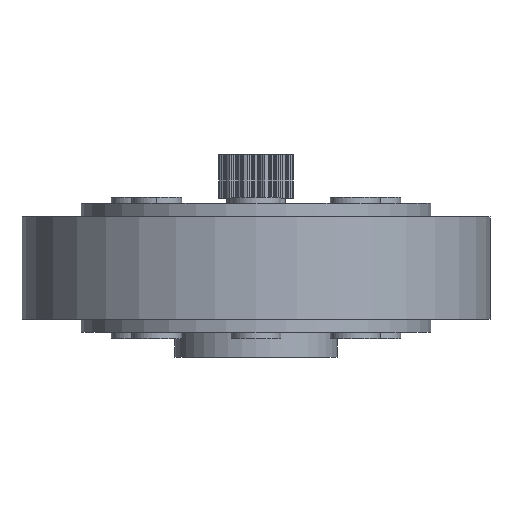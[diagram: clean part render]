
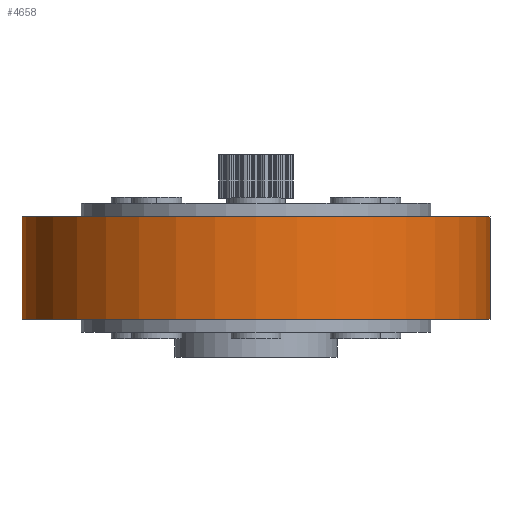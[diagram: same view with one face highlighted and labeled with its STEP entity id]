
A CAD part, front view. The second image highlights one B-rep face of the part: STEP entity #4658.
In plain terms, the highlighted cylindrical face has radius 37.5 mm (diameter 75 mm), a partial arc.
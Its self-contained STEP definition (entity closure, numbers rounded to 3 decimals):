
#352 = ORIENTED_EDGE ( 'NONE', *, *, #2582, .T. ) ;
#788 = ORIENTED_EDGE ( 'NONE', *, *, #2231, .F. ) ;
#1329 = DIRECTION ( 'NONE',  ( 0., 0., -1. ) ) ;
#1604 = VECTOR ( 'NONE', #5504, 1000. ) ;
#1650 = DIRECTION ( 'NONE',  ( 0., 0., 1. ) ) ;
#1728 = EDGE_LOOP ( 'NONE', ( #788, #3294, #352, #4511 ) ) ;
#1979 = CARTESIAN_POINT ( 'NONE',  ( -37.5, 0., 8.2 ) ) ;
#2231 = EDGE_CURVE ( 'NONE', #2279, #3272, #4250, .T. ) ;
#2279 = VERTEX_POINT ( 'NONE', #16888 ) ;
#2582 = EDGE_CURVE ( 'NONE', #17838, #8717, #6778, .T. ) ;
#2590 = CIRCLE ( 'NONE', #10154, 37.5 ) ;
#3272 = VERTEX_POINT ( 'NONE', #4844 ) ;
#3294 = ORIENTED_EDGE ( 'NONE', *, *, #17226, .F. ) ;
#3572 = FACE_OUTER_BOUND ( 'NONE', #1728, .T. ) ;
#3914 = VECTOR ( 'NONE', #1329, 1000. ) ;
#4250 = LINE ( 'NONE', #9550, #3914 ) ;
#4511 = ORIENTED_EDGE ( 'NONE', *, *, #7817, .T. ) ;
#4658 = ADVANCED_FACE ( 'NONE', ( #3572 ), #5209, .T. ) ;
#4844 = CARTESIAN_POINT ( 'NONE',  ( 37.5, 0., -8.2 ) ) ;
#5209 = CYLINDRICAL_SURFACE ( 'NONE', #15347, 37.5 ) ;
#5504 = DIRECTION ( 'NONE',  ( 0., 0., -1. ) ) ;
#5592 = CARTESIAN_POINT ( 'NONE',  ( -37.5, 0., 8.2 ) ) ;
#6778 = LINE ( 'NONE', #5592, #1604 ) ;
#7817 = EDGE_CURVE ( 'NONE', #8717, #3272, #2590, .T. ) ;
#8345 = CARTESIAN_POINT ( 'NONE',  ( -37.5, 0., -8.2 ) ) ;
#8613 = CIRCLE ( 'NONE', #14771, 37.5 ) ;
#8717 = VERTEX_POINT ( 'NONE', #8345 ) ;
#9550 = CARTESIAN_POINT ( 'NONE',  ( 37.5, 0., 8.2 ) ) ;
#9957 = DIRECTION ( 'NONE',  ( 1., 0., 0. ) ) ;
#10154 = AXIS2_PLACEMENT_3D ( 'NONE', #12860, #15807, #15531 ) ;
#10513 = CARTESIAN_POINT ( 'NONE',  ( 0., 0., 8.2 ) ) ;
#12598 = CARTESIAN_POINT ( 'NONE',  ( 0., 0., 8.2 ) ) ;
#12860 = CARTESIAN_POINT ( 'NONE',  ( 0., 0., -8.2 ) ) ;
#14771 = AXIS2_PLACEMENT_3D ( 'NONE', #12598, #1650, #9957 ) ;
#15347 = AXIS2_PLACEMENT_3D ( 'NONE', #10513, #17570, #17392 ) ;
#15531 = DIRECTION ( 'NONE',  ( 1., 0., 0. ) ) ;
#15807 = DIRECTION ( 'NONE',  ( 0., 0., 1. ) ) ;
#16888 = CARTESIAN_POINT ( 'NONE',  ( 37.5, 0., 8.2 ) ) ;
#17226 = EDGE_CURVE ( 'NONE', #17838, #2279, #8613, .T. ) ;
#17392 = DIRECTION ( 'NONE',  ( -1., 0., 0. ) ) ;
#17570 = DIRECTION ( 'NONE',  ( 0., 0., -1. ) ) ;
#17838 = VERTEX_POINT ( 'NONE', #1979 ) ;
